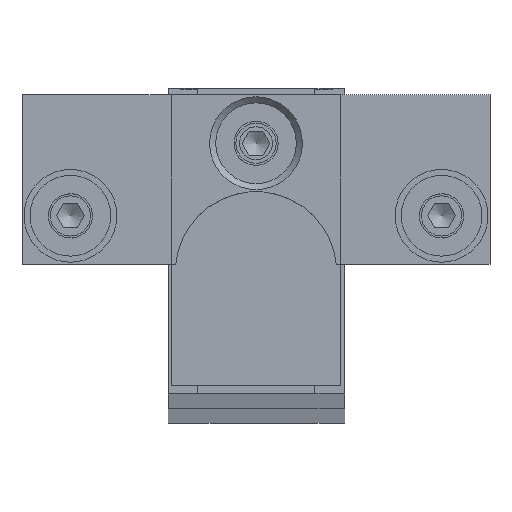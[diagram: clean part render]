
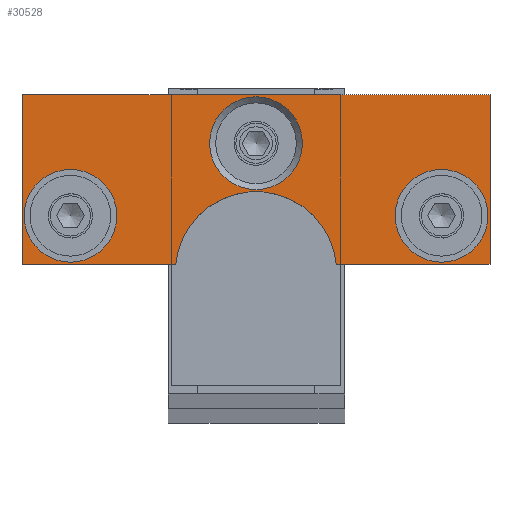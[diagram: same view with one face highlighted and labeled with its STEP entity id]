
A CAD part, top view. The second image highlights one B-rep face of the part: STEP entity #30528.
In plain terms, the highlighted planar face has unit normal (0, 0, 1).
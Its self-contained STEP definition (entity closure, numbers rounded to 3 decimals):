
#403=FACE_BOUND('',#3987,.T.);
#404=FACE_BOUND('',#3988,.T.);
#405=FACE_BOUND('',#3989,.T.);
#843=PLANE('',#32975);
#2199=FACE_OUTER_BOUND('',#3986,.T.);
#3986=EDGE_LOOP('',(#21048,#21049,#21050,#21051,#21052,#21053));
#3987=EDGE_LOOP('',(#21054));
#3988=EDGE_LOOP('',(#21055));
#3989=EDGE_LOOP('',(#21056));
#6305=LINE('',#52328,#7386);
#6306=LINE('',#52330,#7387);
#6307=LINE('',#52332,#7388);
#6308=LINE('',#52336,#7389);
#6309=LINE('',#52337,#7390);
#7386=VECTOR('',#38839,10.);
#7387=VECTOR('',#38840,10.);
#7388=VECTOR('',#38841,10.);
#7389=VECTOR('',#38844,10.);
#7390=VECTOR('',#38845,10.);
#8765=CIRCLE('',#32973,5.75);
#8767=CIRCLE('',#32976,10.);
#8768=CIRCLE('',#32977,5.75);
#8769=CIRCLE('',#32978,5.75);
#11892=VERTEX_POINT('',#52320);
#11894=VERTEX_POINT('',#52326);
#11895=VERTEX_POINT('',#52327);
#11896=VERTEX_POINT('',#52329);
#11897=VERTEX_POINT('',#52331);
#11898=VERTEX_POINT('',#52333);
#11899=VERTEX_POINT('',#52335);
#11900=VERTEX_POINT('',#52338);
#11901=VERTEX_POINT('',#52340);
#15539=EDGE_CURVE('',#11892,#11892,#8765,.T.);
#15542=EDGE_CURVE('',#11894,#11895,#6305,.T.);
#15543=EDGE_CURVE('',#11895,#11896,#6306,.T.);
#15544=EDGE_CURVE('',#11896,#11897,#6307,.T.);
#15545=EDGE_CURVE('',#11897,#11898,#8767,.T.);
#15546=EDGE_CURVE('',#11898,#11899,#6308,.T.);
#15547=EDGE_CURVE('',#11899,#11894,#6309,.T.);
#15548=EDGE_CURVE('',#11900,#11900,#8768,.T.);
#15549=EDGE_CURVE('',#11901,#11901,#8769,.T.);
#21048=ORIENTED_EDGE('',*,*,#15542,.T.);
#21049=ORIENTED_EDGE('',*,*,#15543,.T.);
#21050=ORIENTED_EDGE('',*,*,#15544,.T.);
#21051=ORIENTED_EDGE('',*,*,#15545,.T.);
#21052=ORIENTED_EDGE('',*,*,#15546,.T.);
#21053=ORIENTED_EDGE('',*,*,#15547,.T.);
#21054=ORIENTED_EDGE('',*,*,#15548,.F.);
#21055=ORIENTED_EDGE('',*,*,#15549,.F.);
#21056=ORIENTED_EDGE('',*,*,#15539,.F.);
#30528=ADVANCED_FACE('',(#2199,#403,#404,#405),#843,.T.);
#32973=AXIS2_PLACEMENT_3D('',#52321,#38832,#38833);
#32975=AXIS2_PLACEMENT_3D('',#52325,#38837,#38838);
#32976=AXIS2_PLACEMENT_3D('',#52334,#38842,#38843);
#32977=AXIS2_PLACEMENT_3D('',#52339,#38846,#38847);
#32978=AXIS2_PLACEMENT_3D('',#52341,#38848,#38849);
#38832=DIRECTION('center_axis',(0.,0.,
1.));
#38833=DIRECTION('ref_axis',(-1.,0.,0.));
#38837=DIRECTION('center_axis',(0.,0.,
1.));
#38838=DIRECTION('ref_axis',(1.,0.,0.));
#38839=DIRECTION('',(-1.,0.,0.));
#38840=DIRECTION('',(0.,-1.,0.));
#38841=DIRECTION('',(1.,0.,0.));
#38842=DIRECTION('center_axis',(0.,0.,
-1.));
#38843=DIRECTION('ref_axis',(0.995,0.1,0.));
#38844=DIRECTION('',(1.,0.,0.));
#38845=DIRECTION('',(0.,1.,0.));
#38846=DIRECTION('center_axis',(0.,0.,
1.));
#38847=DIRECTION('ref_axis',(-1.,0.,0.));
#38848=DIRECTION('center_axis',(0.,0.,
1.));
#38849=DIRECTION('ref_axis',(-1.,0.,0.));
#52320=CARTESIAN_POINT('',(39.65,22.,556.));
#52321=CARTESIAN_POINT('Origin',(33.9,22.,556.));
#52325=CARTESIAN_POINT('Origin',(10.9,27.153,556.));
#52326=CARTESIAN_POINT('',(39.9,37.,556.));
#52327=CARTESIAN_POINT('',(-18.1,37.,556.));
#52328=CARTESIAN_POINT('',(-18.1,37.,556.));
#52329=CARTESIAN_POINT('',(-18.1,16.,556.));
#52330=CARTESIAN_POINT('',(-18.1,16.,556.));
#52331=CARTESIAN_POINT('',(0.95,16.,556.));
#52332=CARTESIAN_POINT('',(0.95,16.,556.));
#52333=CARTESIAN_POINT('',(20.85,16.,556.));
#52334=CARTESIAN_POINT('Origin',(10.9,15.,556.));
#52335=CARTESIAN_POINT('',(39.9,16.,556.));
#52336=CARTESIAN_POINT('',(39.9,16.,556.));
#52337=CARTESIAN_POINT('',(39.9,37.,556.));
#52338=CARTESIAN_POINT('',(16.65,31.,556.));
#52339=CARTESIAN_POINT('Origin',(10.9,31.,556.));
#52340=CARTESIAN_POINT('',(-6.35,22.,556.));
#52341=CARTESIAN_POINT('Origin',(-12.1,22.,556.));
